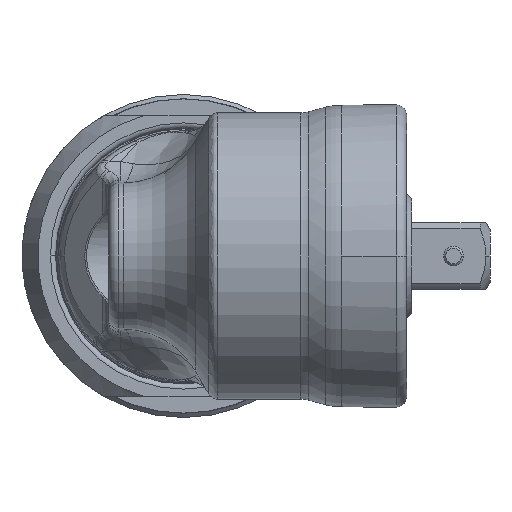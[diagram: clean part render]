
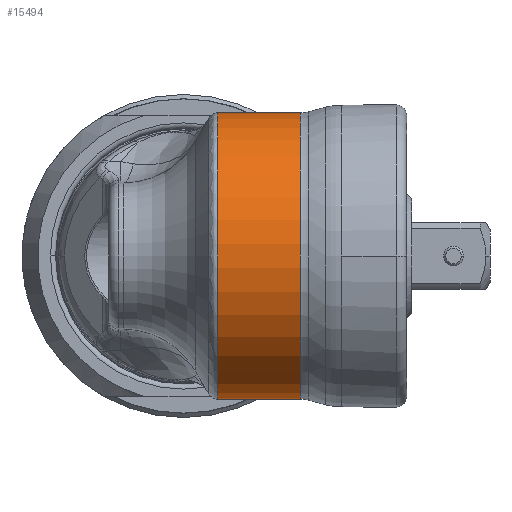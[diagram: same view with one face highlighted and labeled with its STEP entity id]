
A CAD part, left-side view. The second image highlights one B-rep face of the part: STEP entity #15494.
In plain terms, the highlighted cylindrical face has radius 13.75 mm (diameter 27.5 mm), a partial arc.
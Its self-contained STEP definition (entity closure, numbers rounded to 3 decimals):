
#5882=CARTESIAN_POINT('',(0.,-3.284,0.));
#5883=DIRECTION('',(0.,1.,0.));
#5884=DIRECTION('',(0.223,0.,-0.975));
#5885=AXIS2_PLACEMENT_3D('',#5882,#5883,#5884);
#5890=DIRECTION('',(0.,-1.,0.));
#5891=VECTOR('',#5890,7.922);
#5892=CARTESIAN_POINT('',(3.062,-3.284,13.405));
#5893=LINE('649',#5892,#5891);
#5897=CARTESIAN_POINT('',(0.,-11.206,0.));
#5898=DIRECTION('',(0.,1.,0.));
#5899=DIRECTION('',(0.223,0.,-0.975));
#5900=AXIS2_PLACEMENT_3D('',#5897,#5898,#5899);
#5905=DIRECTION('',(0.,-1.,0.));
#5906=VECTOR('',#5905,7.922);
#5907=CARTESIAN_POINT('',(3.062,-3.284,
-13.405));
#5908=LINE('650',#5907,#5906);
#8297=CARTESIAN_POINT('',(3.062,-11.206,
-13.405));
#8298=CARTESIAN_POINT('',(3.062,-11.206,13.405));
#8299=VERTEX_POINT('',#8297);
#8300=VERTEX_POINT('',#8298);
#8319=CARTESIAN_POINT('',(3.062,-3.284,
-13.405));
#8320=CARTESIAN_POINT('',(3.062,-3.284,13.405));
#8321=VERTEX_POINT('',#8319);
#8322=VERTEX_POINT('',#8320);
#15481=CARTESIAN_POINT('',(0.,8.63,0.));
#15482=DIRECTION('',(0.,-1.,0.));
#15483=DIRECTION('',(-1.,0.,0.));
#15484=AXIS2_PLACEMENT_3D('',#15481,#15482,#15483);
#15485=CYLINDRICAL_SURFACE('101',#15484,13.75);
#15486=ORIENTED_EDGE('635',*,*,#13222,.T.);
#15488=ORIENTED_EDGE('649',*,*,#15487,.T.);
#15489=ORIENTED_EDGE('604',*,*,#15465,.F.);
#15491=ORIENTED_EDGE('650',*,*,#15490,.F.);
#15492=EDGE_LOOP('101',(#15486,#15488,#15489,#15491));
#15493=FACE_OUTER_BOUND('101',#15492,.F.);
#5886=CIRCLE('635',#5885,13.75);
#5901=CIRCLE('604',#5900,13.75);
#13222=EDGE_CURVE('635',#8321,#8322,#5886,.T.);
#15465=EDGE_CURVE('604',#8299,#8300,#5901,.T.);
#15487=EDGE_CURVE('649',#8322,#8300,#5893,.T.);
#15490=EDGE_CURVE('650',#8321,#8299,#5908,.T.);
#15494=ADVANCED_FACE('101',(#15493),#15485,.T.);
